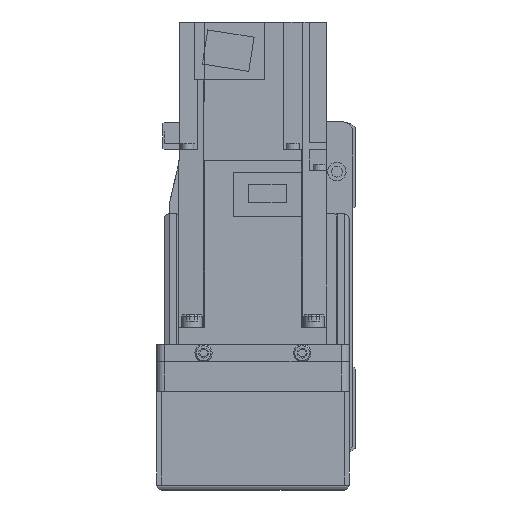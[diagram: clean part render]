
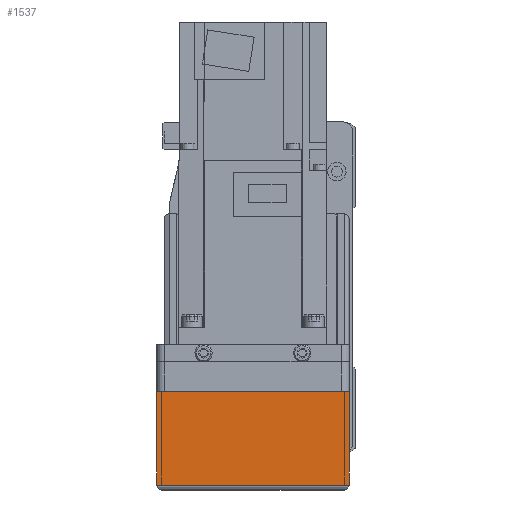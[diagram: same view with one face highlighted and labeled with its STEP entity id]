
A CAD part, left-side view. The second image highlights one B-rep face of the part: STEP entity #1537.
In plain terms, the highlighted planar face has unit normal (-1, 0, 0).
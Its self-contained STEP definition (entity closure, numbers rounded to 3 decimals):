
#1537 = ADVANCED_FACE( '', ( #3971 ), #3972, .F. );
#3971 = FACE_OUTER_BOUND( '', #7650, .T. );
#3972 = PLANE( '', #7651 );
#7650 = EDGE_LOOP( '', ( #12044, #12045, #12046, #12047 ) );
#7651 = AXIS2_PLACEMENT_3D( '', #12048, #12049, #12050 );
#12044 = ORIENTED_EDGE( '', *, *, #21174, .F. );
#12045 = ORIENTED_EDGE( '', *, *, #21175, .F. );
#12046 = ORIENTED_EDGE( '', *, *, #21176, .T. );
#12047 = ORIENTED_EDGE( '', *, *, #21177, .F. );
#12048 = CARTESIAN_POINT( '', ( -158., 36., 7. ) );
#12049 = DIRECTION( '', ( 1., 0., 0. ) );
#12050 = DIRECTION( '', ( 0., 0., -1. ) );
#21174 = EDGE_CURVE( '', #25427, #25154, #25428, .T. );
#21175 = EDGE_CURVE( '', #25429, #25427, #25430, .T. );
#21176 = EDGE_CURVE( '', #25429, #25431, #25432, .T. );
#21177 = EDGE_CURVE( '', #25154, #25431, #25433, .T. );
#25154 = VERTEX_POINT( '', #31458 );
#25427 = VERTEX_POINT( '', #32168 );
#25428 = LINE( '', #32169, #32170 );
#25429 = VERTEX_POINT( '', #32171 );
#25430 = LINE( '', #32172, #32173 );
#25431 = VERTEX_POINT( '', #32174 );
#25432 = LINE( '', #32175, #32176 );
#25433 = LINE( '', #32177, #32178 );
#31458 = CARTESIAN_POINT( '', ( -158., -39., -12.1 ) );
#32168 = CARTESIAN_POINT( '', ( -158., 39., -12.1 ) );
#32169 = CARTESIAN_POINT( '', ( -158., 50., -12.1 ) );
#32170 = VECTOR( '', #39258, 1000. );
#32171 = CARTESIAN_POINT( '', ( -158., 39., -50. ) );
#32172 = CARTESIAN_POINT( '', ( -158., 39., -50. ) );
#32173 = VECTOR( '', #39259, 1000. );
#32174 = CARTESIAN_POINT( '', ( -158., -39., -50. ) );
#32175 = CARTESIAN_POINT( '', ( -158., 40., -50. ) );
#32176 = VECTOR( '', #39260, 1000. );
#32177 = CARTESIAN_POINT( '', ( -158., -39., -12.1 ) );
#32178 = VECTOR( '', #39261, 1000. );
#39258 = DIRECTION( '', ( 0., -1., 0. ) );
#39259 = DIRECTION( '', ( 0., 0., 1. ) );
#39260 = DIRECTION( '', ( 0., -1., 0. ) );
#39261 = DIRECTION( '', ( 0., 0., -1. ) );
